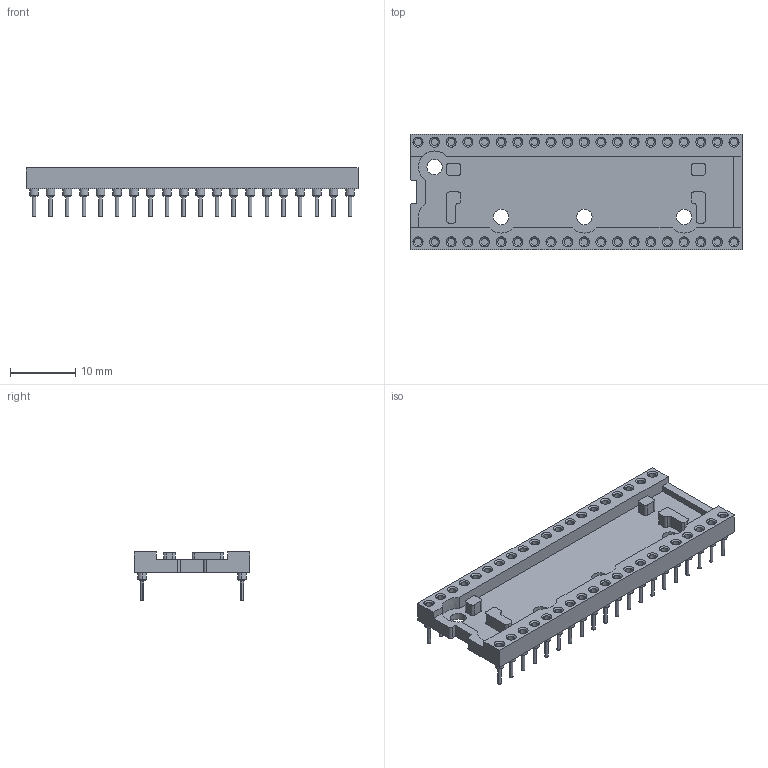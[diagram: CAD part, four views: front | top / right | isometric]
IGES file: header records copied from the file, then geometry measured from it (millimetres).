
Start section:  PTC IGES file: c-3-1571550-2-b-3d.igs
Global section: file name: c-3-1571550-2-b-3d.igs; native system: Pro/ENGINEER by Parametric Technology Corporation; preprocessor: 2005450; author: workeradm; organization: Unknown; date: 080110.150054; units: millimetre
Bounding box: 50.7 x 17.68 x 7.37 mm (x, y, z)
Surface area: 3005.2 mm2 (no closed solid volume)
Topology: 0 solids, 0 shells, 560 faces, 2364 edges, 2364 vertices
Faces by surface type: revolution 435, bspline 125
